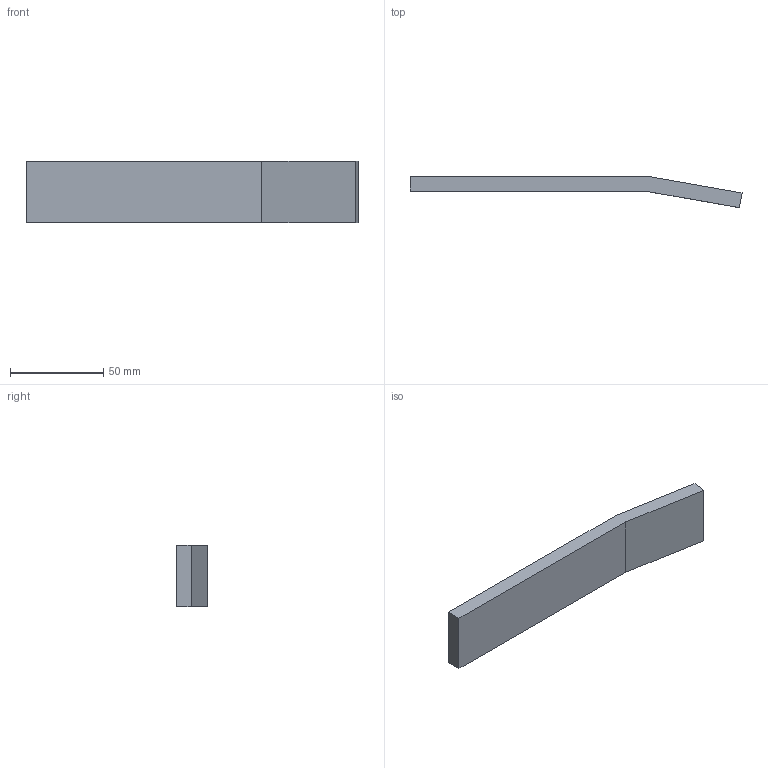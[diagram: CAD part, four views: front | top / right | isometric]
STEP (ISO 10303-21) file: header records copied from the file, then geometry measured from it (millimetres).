
FILE_DESCRIPTION (( 'STEP AP214' ), '1' );
FILE_NAME ('YYDK-500-0011 油管保护罩2（500T）-2.step', '2024-11-20T05:47:10', ( '' ), ( '' ), 'SwSTEP 2.0', 'SolidWorks 2020', '' );
FILE_SCHEMA (( 'AUTOMOTIVE_DESIGN' ));
Length unit declared in the file: inch
Products named in the file (1): YYDK-500-0011 油管保护罩2（500T）-2
Bounding box: 177.8 x 16.83 x 33.02 mm (x, y, z)
Volume: 46980.8 mm3; surface area: 15121.3 mm2
Topology: 1 solids, 1 shells, 8 faces, 18 edges, 12 vertices
Faces by surface type: plane 8
Entity records: 262 total; most frequent: CARTESIAN_POINT 39, ORIENTED_EDGE 36, DIRECTION 36, EDGE_CURVE 18, LINE 18, VECTOR 18, VERTEX_POINT 12, AXIS2_PLACEMENT_3D 9
